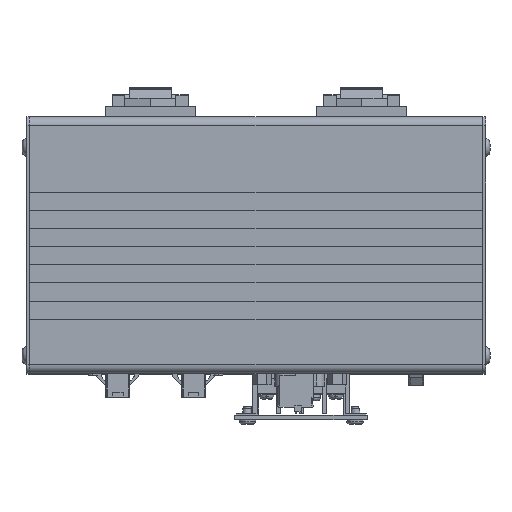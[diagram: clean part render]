
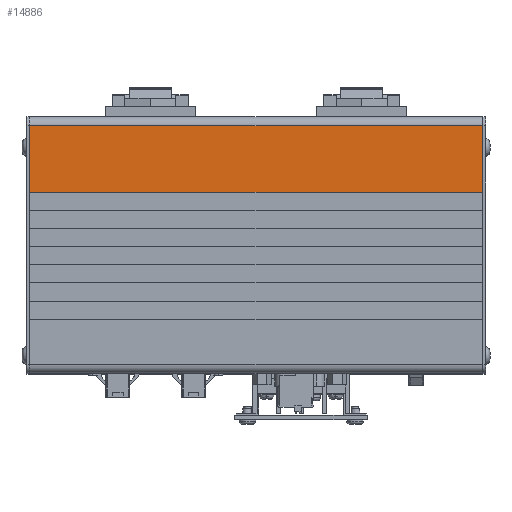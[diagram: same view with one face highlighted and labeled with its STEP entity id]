
A CAD part, top view. The second image highlights one B-rep face of the part: STEP entity #14886.
In plain terms, the highlighted planar face has unit normal (0, 0, 1) as drawn and (0, 1, 0) by its records, which use the part's own axes.
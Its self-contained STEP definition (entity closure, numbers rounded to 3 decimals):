
#14886=ADVANCED_FACE('',(#33475),#33476,.T.);
#33475=FACE_OUTER_BOUND('',#56480,.T.);
#33476=PLANE('',#56481);
#56480=EDGE_LOOP('',(#104359,#104360,#104361,#104362));
#56481=AXIS2_PLACEMENT_3D('',#104363,#104364,#104365);
#104359=ORIENTED_EDGE('',*,*,#151958,.F.);
#104360=ORIENTED_EDGE('',*,*,#152133,.F.);
#104361=ORIENTED_EDGE('',*,*,#151882,.F.);
#104362=ORIENTED_EDGE('',*,*,#152066,.F.);
#104363=CARTESIAN_POINT('',(-90.0,126.0,-85.0));
#104364=DIRECTION('',(-0.0,1.0,0.0));
#104365=DIRECTION('',(1.0,0.0,0.0));
#151882=EDGE_CURVE('',#183548,#183550,#183551,.T.);
#151958=EDGE_CURVE('',#183684,#183686,#183687,.T.);
#152066=EDGE_CURVE('',#183686,#183548,#183819,.T.);
#152133=EDGE_CURVE('',#183550,#183684,#183888,.T.);
#183548=VERTEX_POINT('',#226975);
#183550=VERTEX_POINT('',#226978);
#183551=LINE('',#226979,#226980);
#183684=VERTEX_POINT('',#227182);
#183686=VERTEX_POINT('',#227184);
#183687=LINE('',#227185,#227186);
#183819=LINE('',#227370,#227371);
#183888=LINE('',#227479,#227480);
#226975=CARTESIAN_POINT('',(-90.0,126.0,-60.0));
#226978=CARTESIAN_POINT('',(-90.0,126.0,-82.0));
#226979=CARTESIAN_POINT('',(-90.0,126.0,-60.0));
#226980=VECTOR('',#276435,22.0);
#227182=CARTESIAN_POINT('',(60.0,126.0,-82.0));
#227184=CARTESIAN_POINT('',(60.0,126.0,-60.0));
#227185=CARTESIAN_POINT('',(60.0,126.0,-82.0));
#227186=VECTOR('',#276520,22.0);
#227370=CARTESIAN_POINT('',(60.0,126.0,-60.0));
#227371=VECTOR('',#276639,150.0);
#227479=CARTESIAN_POINT('',(-90.0,126.0,-82.0));
#227480=VECTOR('',#276665,150.0);
#276435=DIRECTION('',(0.0,0.0,-1.0));
#276520=DIRECTION('',(0.0,0.0,1.0));
#276639=DIRECTION('',(-1.0,0.0,0.0));
#276665=DIRECTION('',(1.0,0.0,0.0));
